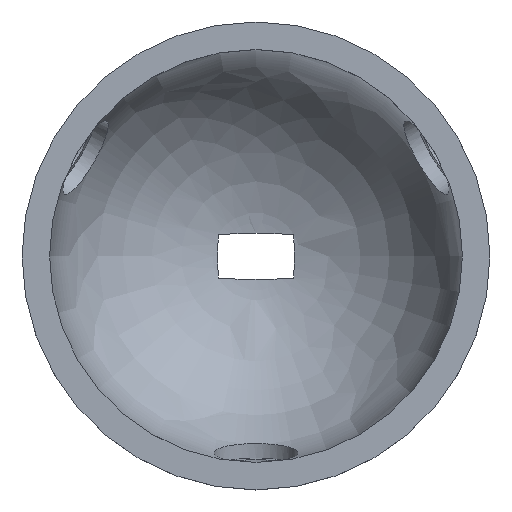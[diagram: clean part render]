
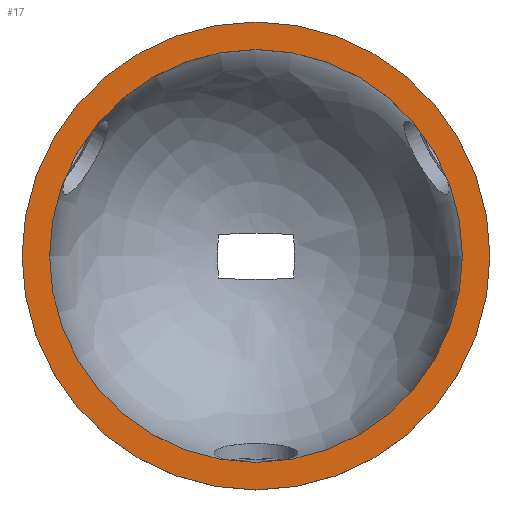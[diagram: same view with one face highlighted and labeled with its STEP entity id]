
A CAD part, top view. The second image highlights one B-rep face of the part: STEP entity #17.
In plain terms, the highlighted planar face has unit normal (0, 0, 1).
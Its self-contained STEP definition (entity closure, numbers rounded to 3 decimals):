
#17 = ADVANCED_FACE('',(#18,#54),#31,.T.);
#18 = FACE_BOUND('',#19,.F.);
#19 = EDGE_LOOP('',(#20));
#20 = ORIENTED_EDGE('',*,*,#21,.T.);
#21 = EDGE_CURVE('',#22,#22,#24,.T.);
#22 = VERTEX_POINT('',#23);
#23 = CARTESIAN_POINT('',(22.5,0.,0.));
#24 = SURFACE_CURVE('',#25,(#30,#42),.PCURVE_S1.);
#25 = CIRCLE('',#26,22.5);
#26 = AXIS2_PLACEMENT_3D('',#27,#28,#29);
#27 = CARTESIAN_POINT('',(0.,0.,0.));
#28 = DIRECTION('',(0.,0.,1.));
#29 = DIRECTION('',(1.,0.,-0.));
#30 = PCURVE('',#31,#36);
#31 = PLANE('',#32);
#32 = AXIS2_PLACEMENT_3D('',#33,#34,#35);
#33 = CARTESIAN_POINT('',(0.,0.,0.));
#34 = DIRECTION('',(0.,0.,1.));
#35 = DIRECTION('',(1.,0.,-0.));
#36 = DEFINITIONAL_REPRESENTATION('',(#37),#41);
#37 = CIRCLE('',#38,22.5);
#38 = AXIS2_PLACEMENT_2D('',#39,#40);
#39 = CARTESIAN_POINT('',(0.,0.));
#40 = DIRECTION('',(1.,-0.));
#41 = ( GEOMETRIC_REPRESENTATION_CONTEXT(2) 
PARAMETRIC_REPRESENTATION_CONTEXT() REPRESENTATION_CONTEXT('2D SPACE',''
  ) );
#42 = PCURVE('',#43,#48);
#43 = CYLINDRICAL_SURFACE('',#44,22.5);
#44 = AXIS2_PLACEMENT_3D('',#45,#46,#47);
#45 = CARTESIAN_POINT('',(0.,0.,-4.));
#46 = DIRECTION('',(0.,0.,1.));
#47 = DIRECTION('',(1.,0.,-0.));
#48 = DEFINITIONAL_REPRESENTATION('',(#49),#53);
#49 = LINE('',#50,#51);
#50 = CARTESIAN_POINT('',(0.,4.));
#51 = VECTOR('',#52,1.);
#52 = DIRECTION('',(1.,0.));
#53 = ( GEOMETRIC_REPRESENTATION_CONTEXT(2) 
PARAMETRIC_REPRESENTATION_CONTEXT() REPRESENTATION_CONTEXT('2D SPACE',''
  ) );
#54 = FACE_BOUND('',#55,.F.);
#55 = EDGE_LOOP('',(#56));
#56 = ORIENTED_EDGE('',*,*,#57,.F.);
#57 = EDGE_CURVE('',#58,#58,#60,.T.);
#58 = VERTEX_POINT('',#59);
#59 = CARTESIAN_POINT('',(25.5,0.,0.));
#60 = SURFACE_CURVE('',#61,(#66,#73),.PCURVE_S1.);
#61 = CIRCLE('',#62,25.5);
#62 = AXIS2_PLACEMENT_3D('',#63,#64,#65);
#63 = CARTESIAN_POINT('',(0.,0.,0.));
#64 = DIRECTION('',(0.,0.,1.));
#65 = DIRECTION('',(1.,0.,-0.));
#66 = PCURVE('',#31,#67);
#67 = DEFINITIONAL_REPRESENTATION('',(#68),#72);
#68 = CIRCLE('',#69,25.5);
#69 = AXIS2_PLACEMENT_2D('',#70,#71);
#70 = CARTESIAN_POINT('',(0.,0.));
#71 = DIRECTION('',(1.,-0.));
#72 = ( GEOMETRIC_REPRESENTATION_CONTEXT(2) 
PARAMETRIC_REPRESENTATION_CONTEXT() REPRESENTATION_CONTEXT('2D SPACE',''
  ) );
#73 = PCURVE('',#74,#79);
#74 = CYLINDRICAL_SURFACE('',#75,25.5);
#75 = AXIS2_PLACEMENT_3D('',#76,#77,#78);
#76 = CARTESIAN_POINT('',(0.,0.,0.));
#77 = DIRECTION('',(-0.,-0.,-1.));
#78 = DIRECTION('',(1.,0.,0.));
#79 = DEFINITIONAL_REPRESENTATION('',(#80),#84);
#80 = LINE('',#81,#82);
#81 = CARTESIAN_POINT('',(-0.,0.));
#82 = VECTOR('',#83,1.);
#83 = DIRECTION('',(-1.,0.));
#84 = ( GEOMETRIC_REPRESENTATION_CONTEXT(2) 
PARAMETRIC_REPRESENTATION_CONTEXT() REPRESENTATION_CONTEXT('2D SPACE',''
  ) );
